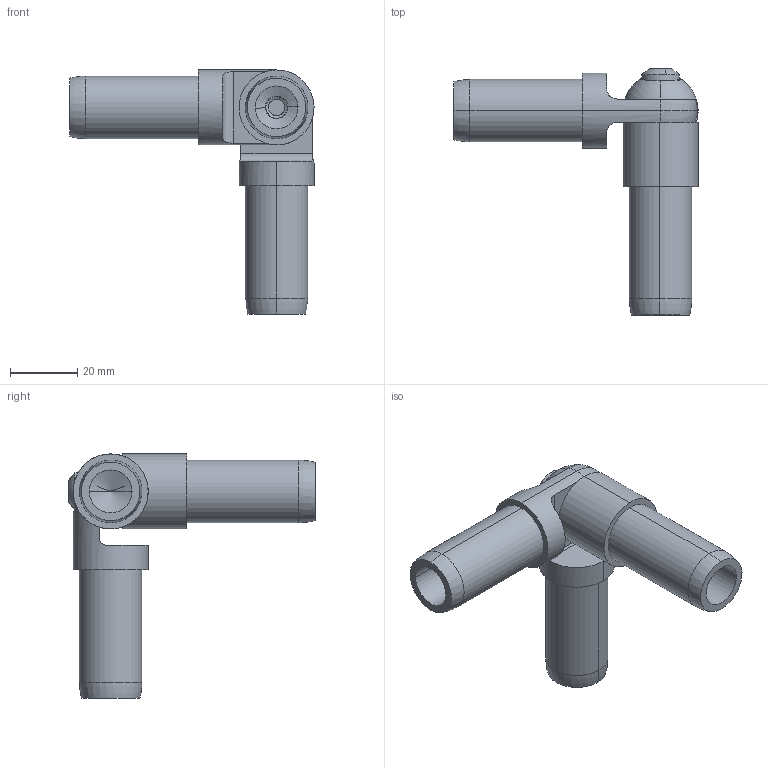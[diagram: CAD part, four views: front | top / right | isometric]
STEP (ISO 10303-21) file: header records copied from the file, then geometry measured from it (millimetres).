
FILE_DESCRIPTION (( 'STEP AP214' ), '1' );
FILE_NAME ('0.75 Inch Adjustable 90 Degree 3-Tube Joint Kit.STEP', '2014-01-09T15:34:29', ( 'ydmin' ), ( 'Microsoft' ), 'SwSTEP 2.0', 'SolidWorks 2013', '' );
FILE_SCHEMA (( 'AUTOMOTIVE_DESIGN' ));
Length unit declared in the file: inch
Products named in the file (1): 0.75 Inch Adjustable 90 Degree 3-Tube Joint Kit
Bounding box: 72.38 x 72.95 x 72.38 mm (x, y, z)
Volume: 34506.6 mm3; surface area: 20353 mm2
Topology: 5 solids, 5 shells, 224 faces, 480 edges, 267 vertices
Faces by surface type: cylinder 91, cone 81, plane 32, torus 10, bspline 8, sphere 2
Entity records: 14386 total; most frequent: CARTESIAN_POINT 6750, DIRECTION 971, ORIENTED_EDGE 948, EDGE_CURVE 474, AXIS2_PLACEMENT_3D 385, VERTEX_POINT 267, EDGE_LOOP 237, DIMENSIONAL_EXPONENTS 231
